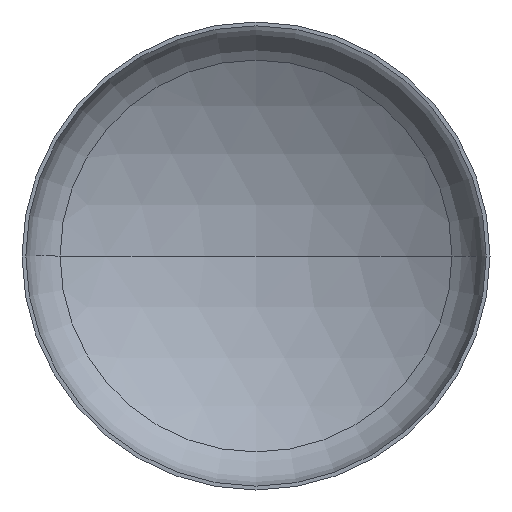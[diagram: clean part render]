
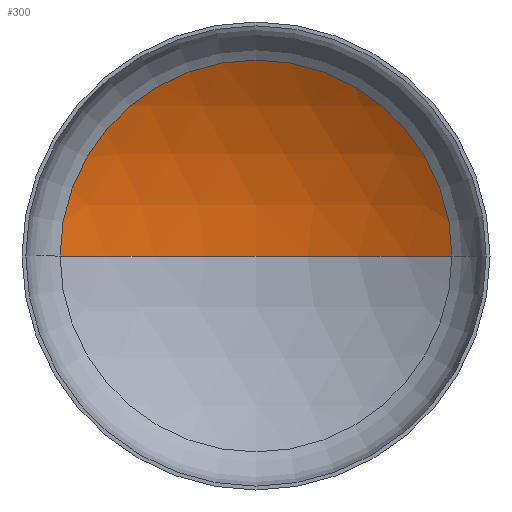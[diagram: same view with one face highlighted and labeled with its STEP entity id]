
A CAD part, front view. The second image highlights one B-rep face of the part: STEP entity #300.
In plain terms, the highlighted spherical face has radius 4400 mm.
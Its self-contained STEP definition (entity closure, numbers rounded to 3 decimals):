
#15 = AXIS2_PLACEMENT_3D ( 'NONE', #285, #154, #71 ) ;
#17 = SPHERICAL_SURFACE ( 'NONE', #15, 4400. ) ;
#18 = ORIENTED_EDGE ( 'NONE', *, *, #258, .F. ) ;
#28 = FACE_OUTER_BOUND ( 'NONE', #130, .T. ) ;
#50 = CARTESIAN_POINT ( 'NONE',  ( 2302.11, 860.114, 0. ) ) ;
#53 = CIRCLE ( 'NONE', #112, 4400. ) ;
#71 = DIRECTION ( 'NONE',  ( -1., 0., 0. ) ) ;
#86 = ORIENTED_EDGE ( 'NONE', *, *, #238, .T. ) ;
#88 = AXIS2_PLACEMENT_3D ( 'NONE', #351, #90, #92 ) ;
#90 = DIRECTION ( 'NONE',  ( 0., 0., 1. ) ) ;
#92 = DIRECTION ( 'NONE',  ( 1., 0., 0. ) ) ;
#94 = VERTEX_POINT ( 'NONE', #183 ) ;
#112 = AXIS2_PLACEMENT_3D ( 'NONE', #352, #357, #360 ) ;
#115 = AXIS2_PLACEMENT_3D ( 'NONE', #226, #257, #254 ) ;
#130 = EDGE_LOOP ( 'NONE', ( #18, #189, #86 ) ) ;
#137 = VERTEX_POINT ( 'NONE', #321 ) ;
#154 = DIRECTION ( 'NONE',  ( 0., 0., -1. ) ) ;
#183 = CARTESIAN_POINT ( 'NONE',  ( -2302.11, 860.114, 0. ) ) ;
#189 = ORIENTED_EDGE ( 'NONE', *, *, #256, .T. ) ;
#226 = CARTESIAN_POINT ( 'NONE',  ( 0., 860.114, 0. ) ) ;
#238 = EDGE_CURVE ( 'NONE', #304, #94, #332, .T. ) ;
#254 = DIRECTION ( 'NONE',  ( 1., 0., 0. ) ) ;
#255 = CIRCLE ( 'NONE', #88, 4400. ) ;
#256 = EDGE_CURVE ( 'NONE', #137, #304, #53, .T. ) ;
#257 = DIRECTION ( 'NONE',  ( 0., -1., 0. ) ) ;
#258 = EDGE_CURVE ( 'NONE', #137, #94, #255, .T. ) ;
#285 = CARTESIAN_POINT ( 'NONE',  ( 0., -2889.592, 0. ) ) ;
#300 = ADVANCED_FACE ( 'NONE', ( #28 ), #17, .F. ) ;
#304 = VERTEX_POINT ( 'NONE', #50 ) ;
#321 = CARTESIAN_POINT ( 'NONE',  ( 0., 1510.408, 0. ) ) ;
#332 = CIRCLE ( 'NONE', #115, 2302.11 ) ;
#351 = CARTESIAN_POINT ( 'NONE',  ( 0., -2889.592, 0. ) ) ;
#352 = CARTESIAN_POINT ( 'NONE',  ( 0., -2889.592, 0. ) ) ;
#357 = DIRECTION ( 'NONE',  ( 0., 0., -1. ) ) ;
#360 = DIRECTION ( 'NONE',  ( -1., 0., 0. ) ) ;
